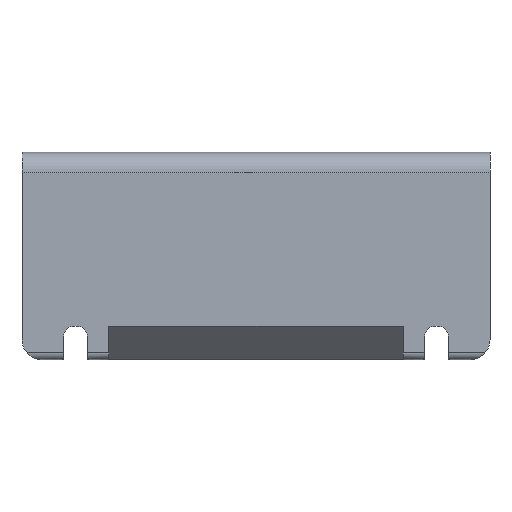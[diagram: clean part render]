
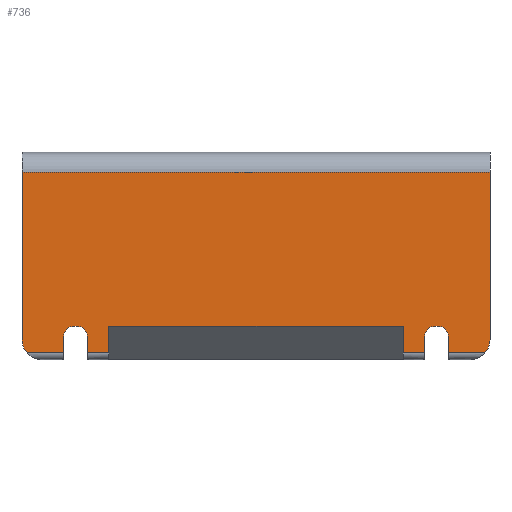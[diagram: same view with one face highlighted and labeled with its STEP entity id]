
A CAD part, front view. The second image highlights one B-rep face of the part: STEP entity #736.
In plain terms, the highlighted planar face has unit normal (0, -1, 0).
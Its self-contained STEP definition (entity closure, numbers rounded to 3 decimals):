
#26=PLANE('',#804);
#51=FACE_OUTER_BOUND('',#92,.T.);
#92=EDGE_LOOP('',(#519,#520,#521,#522,#523,#524,#525,#526,#527,#528,#529,
#530,#531,#532,#533,#534,#535,#536,#537,#538,#539,#540));
#140=LINE('',#1110,#207);
#145=LINE('',#1125,#212);
#153=LINE('',#1154,#220);
#155=LINE('',#1164,#222);
#156=LINE('',#1167,#223);
#157=LINE('',#1171,#224);
#158=LINE('',#1173,#225);
#159=LINE('',#1175,#226);
#160=LINE('',#1179,#227);
#161=LINE('',#1181,#228);
#162=LINE('',#1185,#229);
#163=LINE('',#1189,#230);
#164=LINE('',#1191,#231);
#165=LINE('',#1193,#232);
#166=LINE('',#1195,#233);
#167=LINE('',#1196,#234);
#207=VECTOR('',#879,10.);
#212=VECTOR('',#892,10.);
#220=VECTOR('',#908,10.);
#222=VECTOR('',#918,10.);
#223=VECTOR('',#921,10.);
#224=VECTOR('',#924,10.);
#225=VECTOR('',#925,10.);
#226=VECTOR('',#926,10.);
#227=VECTOR('',#929,10.);
#228=VECTOR('',#930,10.);
#229=VECTOR('',#933,10.);
#230=VECTOR('',#936,10.);
#231=VECTOR('',#937,10.);
#232=VECTOR('',#938,10.);
#233=VECTOR('',#939,10.);
#234=VECTOR('',#940,10.);
#278=CIRCLE('',#805,1.5);
#279=CIRCLE('',#806,1.5);
#280=CIRCLE('',#807,3.);
#281=CIRCLE('',#808,3.);
#282=CIRCLE('',#809,1.5);
#283=CIRCLE('',#810,1.5);
#307=VERTEX_POINT('',#1107);
#308=VERTEX_POINT('',#1109);
#314=VERTEX_POINT('',#1123);
#322=VERTEX_POINT('',#1144);
#323=VERTEX_POINT('',#1153);
#326=VERTEX_POINT('',#1161);
#327=VERTEX_POINT('',#1163);
#328=VERTEX_POINT('',#1165);
#329=VERTEX_POINT('',#1168);
#330=VERTEX_POINT('',#1170);
#331=VERTEX_POINT('',#1172);
#332=VERTEX_POINT('',#1174);
#333=VERTEX_POINT('',#1176);
#334=VERTEX_POINT('',#1178);
#335=VERTEX_POINT('',#1180);
#336=VERTEX_POINT('',#1182);
#337=VERTEX_POINT('',#1184);
#338=VERTEX_POINT('',#1186);
#339=VERTEX_POINT('',#1188);
#340=VERTEX_POINT('',#1190);
#341=VERTEX_POINT('',#1192);
#342=VERTEX_POINT('',#1194);
#381=EDGE_CURVE('',#307,#308,#140,.T.);
#389=EDGE_CURVE('',#307,#314,#145,.T.);
#399=EDGE_CURVE('',#322,#323,#153,.T.);
#403=EDGE_CURVE('',#326,#314,#278,.T.);
#404=EDGE_CURVE('',#326,#327,#155,.T.);
#405=EDGE_CURVE('',#328,#327,#279,.T.);
#406=EDGE_CURVE('',#328,#323,#156,.T.);
#407=EDGE_CURVE('',#329,#322,#280,.T.);
#408=EDGE_CURVE('',#329,#330,#157,.T.);
#409=EDGE_CURVE('',#331,#330,#158,.T.);
#410=EDGE_CURVE('',#332,#331,#159,.T.);
#411=EDGE_CURVE('',#333,#332,#281,.T.);
#412=EDGE_CURVE('',#334,#333,#160,.T.);
#413=EDGE_CURVE('',#334,#335,#161,.T.);
#414=EDGE_CURVE('',#336,#335,#282,.T.);
#415=EDGE_CURVE('',#336,#337,#162,.T.);
#416=EDGE_CURVE('',#338,#337,#283,.T.);
#417=EDGE_CURVE('',#338,#339,#163,.T.);
#418=EDGE_CURVE('',#340,#339,#164,.T.);
#419=EDGE_CURVE('',#340,#341,#165,.T.);
#420=EDGE_CURVE('',#341,#342,#166,.T.);
#421=EDGE_CURVE('',#342,#308,#167,.T.);
#519=ORIENTED_EDGE('',*,*,#381,.F.);
#520=ORIENTED_EDGE('',*,*,#389,.T.);
#521=ORIENTED_EDGE('',*,*,#403,.F.);
#522=ORIENTED_EDGE('',*,*,#404,.T.);
#523=ORIENTED_EDGE('',*,*,#405,.F.);
#524=ORIENTED_EDGE('',*,*,#406,.T.);
#525=ORIENTED_EDGE('',*,*,#399,.F.);
#526=ORIENTED_EDGE('',*,*,#407,.F.);
#527=ORIENTED_EDGE('',*,*,#408,.T.);
#528=ORIENTED_EDGE('',*,*,#409,.F.);
#529=ORIENTED_EDGE('',*,*,#410,.F.);
#530=ORIENTED_EDGE('',*,*,#411,.F.);
#531=ORIENTED_EDGE('',*,*,#412,.F.);
#532=ORIENTED_EDGE('',*,*,#413,.T.);
#533=ORIENTED_EDGE('',*,*,#414,.F.);
#534=ORIENTED_EDGE('',*,*,#415,.T.);
#535=ORIENTED_EDGE('',*,*,#416,.F.);
#536=ORIENTED_EDGE('',*,*,#417,.T.);
#537=ORIENTED_EDGE('',*,*,#418,.F.);
#538=ORIENTED_EDGE('',*,*,#419,.T.);
#539=ORIENTED_EDGE('',*,*,#420,.T.);
#540=ORIENTED_EDGE('',*,*,#421,.T.);
#736=ADVANCED_FACE('',(#51),#26,.T.);
#804=AXIS2_PLACEMENT_3D('',#1160,#914,#915);
#805=AXIS2_PLACEMENT_3D('',#1162,#916,#917);
#806=AXIS2_PLACEMENT_3D('',#1166,#919,#920);
#807=AXIS2_PLACEMENT_3D('',#1169,#922,#923);
#808=AXIS2_PLACEMENT_3D('',#1177,#927,#928);
#809=AXIS2_PLACEMENT_3D('',#1183,#931,#932);
#810=AXIS2_PLACEMENT_3D('',#1187,#934,#935);
#879=DIRECTION('',(-1.,0.,0.));
#892=DIRECTION('',(0.,0.,1.));
#908=DIRECTION('',(-1.,0.,0.));
#914=DIRECTION('center_axis',(0.,-1.,0.));
#915=DIRECTION('ref_axis',(1.,0.,0.));
#916=DIRECTION('center_axis',(0.,-1.,0.));
#917=DIRECTION('ref_axis',(-0.707,0.,0.707));
#918=DIRECTION('',(1.,0.,0.));
#919=DIRECTION('center_axis',(0.,-1.,0.));
#920=DIRECTION('ref_axis',(0.707,0.,0.707));
#921=DIRECTION('',(0.,0.,-1.));
#922=DIRECTION('center_axis',(0.,1.,0.));
#923=DIRECTION('ref_axis',(0.707,0.,-0.707));
#924=DIRECTION('',(0.,0.,1.));
#925=DIRECTION('',(1.,0.,0.));
#926=DIRECTION('',(0.,0.,1.));
#927=DIRECTION('center_axis',(0.,1.,0.));
#928=DIRECTION('ref_axis',(-0.707,0.,-0.707));
#929=DIRECTION('',(-1.,0.,0.));
#930=DIRECTION('',(0.,0.,1.));
#931=DIRECTION('center_axis',(0.,-1.,0.));
#932=DIRECTION('ref_axis',(-0.707,0.,0.707));
#933=DIRECTION('',(1.,0.,0.));
#934=DIRECTION('center_axis',(0.,-1.,0.));
#935=DIRECTION('ref_axis',(0.707,0.,0.707));
#936=DIRECTION('',(0.,0.,-1.));
#937=DIRECTION('',(-1.,0.,0.));
#938=DIRECTION('',(0.,0.,1.));
#939=DIRECTION('',(1.,0.,0.));
#940=DIRECTION('',(0.,0.,-1.));
#1107=CARTESIAN_POINT('',(25.25,-6.5,1.));
#1109=CARTESIAN_POINT('',(22.,-6.5,1.));
#1110=CARTESIAN_POINT('',(-17.5,-6.5,1.));
#1123=CARTESIAN_POINT('',(25.25,-6.5,3.5));
#1125=CARTESIAN_POINT('',(25.25,-6.5,0.));
#1144=CARTESIAN_POINT('',(34.236,-6.5,1.));
#1153=CARTESIAN_POINT('',(28.75,-6.5,1.));
#1154=CARTESIAN_POINT('',(-17.5,-6.5,1.));
#1160=CARTESIAN_POINT('Origin',(-35.,-6.5,0.));
#1161=CARTESIAN_POINT('',(26.75,-6.5,5.));
#1162=CARTESIAN_POINT('Origin',(26.75,-6.5,3.5));
#1163=CARTESIAN_POINT('',(27.25,-6.5,5.));
#1164=CARTESIAN_POINT('',(-4.,-6.5,5.));
#1165=CARTESIAN_POINT('',(28.75,-6.5,3.5));
#1166=CARTESIAN_POINT('Origin',(27.25,-6.5,3.5));
#1167=CARTESIAN_POINT('',(28.75,-6.5,0.));
#1168=CARTESIAN_POINT('',(35.,-6.5,3.));
#1169=CARTESIAN_POINT('Origin',(32.,-6.5,3.));
#1170=CARTESIAN_POINT('',(35.,-6.5,28.));
#1171=CARTESIAN_POINT('',(35.,-6.5,0.));
#1172=CARTESIAN_POINT('',(-35.,-6.5,28.));
#1173=CARTESIAN_POINT('',(-17.5,-6.5,28.));
#1174=CARTESIAN_POINT('',(-35.,-6.5,3.));
#1175=CARTESIAN_POINT('',(-35.,-6.5,0.));
#1176=CARTESIAN_POINT('',(-34.236,-6.5,1.));
#1177=CARTESIAN_POINT('Origin',(-32.,-6.5,3.));
#1178=CARTESIAN_POINT('',(-28.75,-6.5,1.));
#1179=CARTESIAN_POINT('',(-17.5,-6.5,1.));
#1180=CARTESIAN_POINT('',(-28.75,-6.5,3.5));
#1181=CARTESIAN_POINT('',(-28.75,-6.5,0.));
#1182=CARTESIAN_POINT('',(-27.25,-6.5,5.));
#1183=CARTESIAN_POINT('Origin',(-27.25,-6.5,3.5));
#1184=CARTESIAN_POINT('',(-26.75,-6.5,5.));
#1185=CARTESIAN_POINT('',(-31.,-6.5,5.));
#1186=CARTESIAN_POINT('',(-25.25,-6.5,3.5));
#1187=CARTESIAN_POINT('Origin',(-26.75,-6.5,3.5));
#1188=CARTESIAN_POINT('',(-25.25,-6.5,1.));
#1189=CARTESIAN_POINT('',(-25.25,-6.5,0.));
#1190=CARTESIAN_POINT('',(-22.,-6.5,1.));
#1191=CARTESIAN_POINT('',(-17.5,-6.5,1.));
#1192=CARTESIAN_POINT('',(-22.,-6.5,5.));
#1193=CARTESIAN_POINT('',(-22.,-6.5,0.775));
#1194=CARTESIAN_POINT('',(22.,-6.5,5.));
#1195=CARTESIAN_POINT('',(-17.5,-6.5,5.));
#1196=CARTESIAN_POINT('',(22.,-6.5,0.775));
